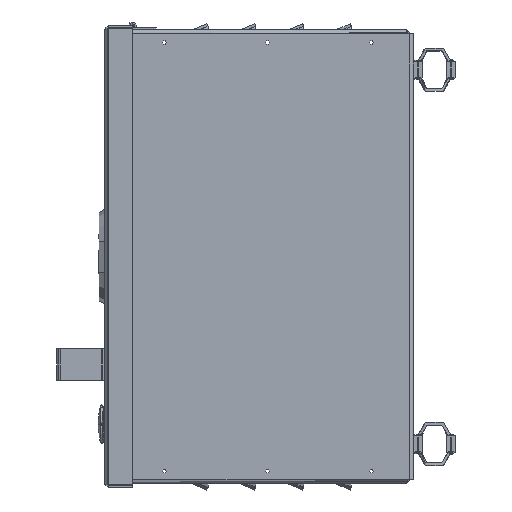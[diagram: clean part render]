
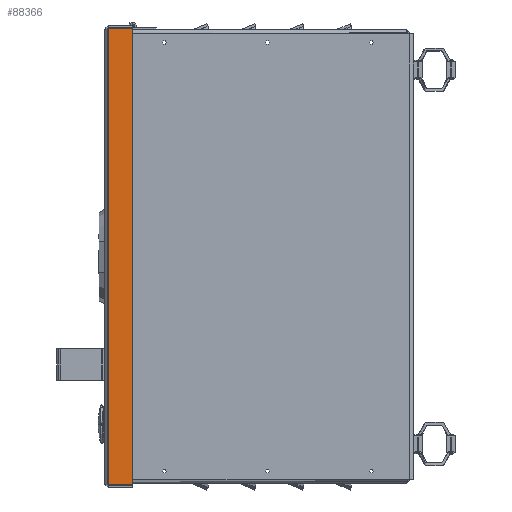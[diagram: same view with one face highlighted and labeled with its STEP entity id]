
A CAD part, left-side view. The second image highlights one B-rep face of the part: STEP entity #88366.
In plain terms, the highlighted planar face has unit normal (-1, 0, 0).
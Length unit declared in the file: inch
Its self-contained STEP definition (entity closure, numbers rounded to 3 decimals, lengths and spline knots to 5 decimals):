
#7512 = DIRECTION ( 'NONE',  ( 1., 0., 0. ) ) ;
#10108 = LINE ( 'NONE', #67944, #18789 ) ;
#13651 = DIRECTION ( 'NONE',  ( 0., -1., 0. ) ) ;
#18789 = VECTOR ( 'NONE', #106062, 39.37008 ) ;
#21188 = ORIENTED_EDGE ( 'NONE', *, *, #88349, .T. ) ;
#28034 = CARTESIAN_POINT ( 'NONE',  ( -11.8247, -0.1147, 7.16379 ) ) ;
#29266 = VECTOR ( 'NONE', #69756, 39.37008 ) ;
#32234 = CARTESIAN_POINT ( 'NONE',  ( -11.8247, 0., -7.16379 ) ) ;
#34068 = ORIENTED_EDGE ( 'NONE', *, *, #63440, .F. ) ;
#50389 = DIRECTION ( 'NONE',  ( 0., 0., -1. ) ) ;
#50874 = AXIS2_PLACEMENT_3D ( 'NONE', #52532, #7512, #109070 ) ;
#51927 = EDGE_LOOP ( 'NONE', ( #34068, #21188, #56671, #62641 ) ) ;
#52532 = CARTESIAN_POINT ( 'NONE',  ( -11.8247, 0., 0. ) ) ;
#52908 = VECTOR ( 'NONE', #50389, 39.37008 ) ;
#56671 = ORIENTED_EDGE ( 'NONE', *, *, #113095, .F. ) ;
#62641 = ORIENTED_EDGE ( 'NONE', *, *, #91052, .F. ) ;
#63320 = LINE ( 'NONE', #97940, #114146 ) ;
#63440 = EDGE_CURVE ( 'NONE', #93750, #71454, #10108, .T. ) ;
#67944 = CARTESIAN_POINT ( 'NONE',  ( -11.8247, -0.1147, 0. ) ) ;
#69756 = DIRECTION ( 'NONE',  ( 0., -1., 0. ) ) ;
#71454 = VERTEX_POINT ( 'NONE', #28034 ) ;
#87260 = LINE ( 'NONE', #89090, #52908 ) ;
#88349 = EDGE_CURVE ( 'NONE', #93750, #115061, #116497, .T. ) ;
#88366 = ADVANCED_FACE ( 'NONE', ( #99842 ), #120100, .F. ) ;
#89090 = CARTESIAN_POINT ( 'NONE',  ( -11.8247, -0.875, 7.185 ) ) ;
#91052 = EDGE_CURVE ( 'NONE', #71454, #111279, #63320, .T. ) ;
#93750 = VERTEX_POINT ( 'NONE', #118128 ) ;
#96677 = CARTESIAN_POINT ( 'NONE',  ( -11.8247, -0.875, -7.16379 ) ) ;
#97940 = CARTESIAN_POINT ( 'NONE',  ( -11.8247, 0., 7.16379 ) ) ;
#99842 = FACE_OUTER_BOUND ( 'NONE', #51927, .T. ) ;
#101532 = CARTESIAN_POINT ( 'NONE',  ( -11.8247, -0.875, 7.16379 ) ) ;
#106062 = DIRECTION ( 'NONE',  ( 0., 0., 1. ) ) ;
#109070 = DIRECTION ( 'NONE',  ( 0., 1., 0. ) ) ;
#111279 = VERTEX_POINT ( 'NONE', #101532 ) ;
#113095 = EDGE_CURVE ( 'NONE', #111279, #115061, #87260, .T. ) ;
#114146 = VECTOR ( 'NONE', #13651, 39.37008 ) ;
#115061 = VERTEX_POINT ( 'NONE', #96677 ) ;
#116497 = LINE ( 'NONE', #32234, #29266 ) ;
#118128 = CARTESIAN_POINT ( 'NONE',  ( -11.8247, -0.1147, -7.16379 ) ) ;
#120100 = PLANE ( 'NONE',  #50874 ) ;
